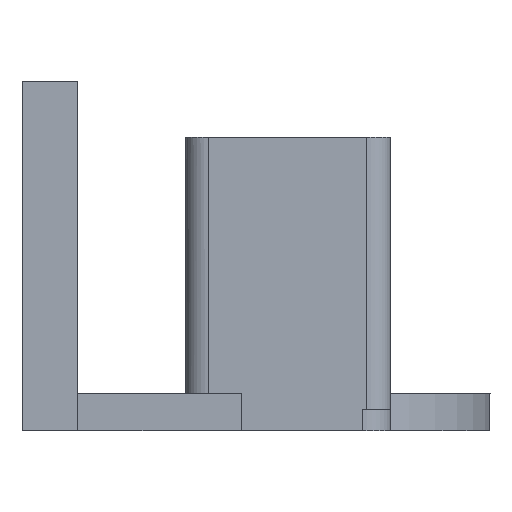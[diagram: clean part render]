
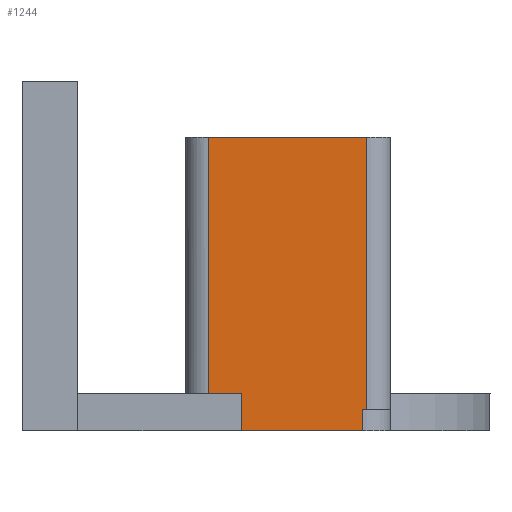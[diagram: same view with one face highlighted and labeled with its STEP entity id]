
A CAD part, left-side view. The second image highlights one B-rep face of the part: STEP entity #1244.
In plain terms, the highlighted planar face has unit normal (-1, 0, 0).
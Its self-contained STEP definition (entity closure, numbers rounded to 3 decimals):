
#45 = PLANE('',#46);
#46 = AXIS2_PLACEMENT_3D('',#47,#48,#49);
#47 = CARTESIAN_POINT('',(0.,0.,0.));
#48 = DIRECTION('',(0.,0.,1.));
#49 = DIRECTION('',(1.,0.,-0.));
#904 = PLANE('',#905);
#905 = AXIS2_PLACEMENT_3D('',#906,#907,#908);
#906 = CARTESIAN_POINT('',(-143.9,-11.,2.3));
#907 = DIRECTION('',(0.,0.,1.));
#908 = DIRECTION('',(1.,0.,0.));
#932 = CYLINDRICAL_SURFACE('',#933,2.5);
#933 = AXIS2_PLACEMENT_3D('',#934,#935,#936);
#934 = CARTESIAN_POINT('',(-141.4,-8.5,2.3));
#935 = DIRECTION('',(0.,0.,1.));
#936 = DIRECTION('',(-1.,0.,0.));
#960 = PLANE('',#961);
#961 = AXIS2_PLACEMENT_3D('',#962,#963,#964);
#962 = CARTESIAN_POINT('',(-143.9,-11.,31.5));
#963 = DIRECTION('',(0.,0.,1.));
#964 = DIRECTION('',(1.,0.,0.));
#1155 = CYLINDRICAL_SURFACE('',#1156,3.);
#1156 = AXIS2_PLACEMENT_3D('',#1157,#1158,#1159);
#1157 = CARTESIAN_POINT('',(-140.9,-8.,0.));
#1158 = DIRECTION('',(0.,0.,1.));
#1159 = DIRECTION('',(-1.,-0.,0.));
#1171 = VERTEX_POINT('',#1172);
#1172 = CARTESIAN_POINT('',(-143.9,-8.5,2.3));
#1196 = VERTEX_POINT('',#1197);
#1197 = CARTESIAN_POINT('',(-143.9,-8.5,31.5));
#1219 = EDGE_CURVE('',#1171,#1196,#1220,.T.);
#1220 = SURFACE_CURVE('',#1221,(#1225,#1232),.PCURVE_S1.);
#1221 = LINE('',#1222,#1223);
#1222 = CARTESIAN_POINT('',(-143.9,-8.5,2.3));
#1223 = VECTOR('',#1224,1.);
#1224 = DIRECTION('',(0.,0.,1.));
#1225 = PCURVE('',#932,#1226);
#1226 = DEFINITIONAL_REPRESENTATION('',(#1227),#1231);
#1227 = LINE('',#1228,#1229);
#1228 = CARTESIAN_POINT('',(0.,0.));
#1229 = VECTOR('',#1230,1.);
#1230 = DIRECTION('',(0.,1.));
#1231 = ( GEOMETRIC_REPRESENTATION_CONTEXT(2) 
PARAMETRIC_REPRESENTATION_CONTEXT() REPRESENTATION_CONTEXT('2D SPACE',''
  ) );
#1232 = PCURVE('',#1233,#1238);
#1233 = PLANE('',#1234);
#1234 = AXIS2_PLACEMENT_3D('',#1235,#1236,#1237);
#1235 = CARTESIAN_POINT('',(-143.9,-11.,0.));
#1236 = DIRECTION('',(1.,0.,-0.));
#1237 = DIRECTION('',(0.,0.,1.));
#1238 = DEFINITIONAL_REPRESENTATION('',(#1239),#1243);
#1239 = LINE('',#1240,#1241);
#1240 = CARTESIAN_POINT('',(2.3,-2.5));
#1241 = VECTOR('',#1242,1.);
#1242 = DIRECTION('',(1.,0.));
#1243 = ( GEOMETRIC_REPRESENTATION_CONTEXT(2) 
PARAMETRIC_REPRESENTATION_CONTEXT() REPRESENTATION_CONTEXT('2D SPACE',''
  ) );
#1244 = ADVANCED_FACE('',(#1245),#1233,.F.);
#1245 = FACE_BOUND('',#1246,.F.);
#1246 = EDGE_LOOP('',(#1247,#1270,#1271,#1294,#1317,#1340,#1366,#1392));
#1247 = ORIENTED_EDGE('',*,*,#1248,.F.);
#1248 = EDGE_CURVE('',#1196,#1249,#1251,.T.);
#1249 = VERTEX_POINT('',#1250);
#1250 = CARTESIAN_POINT('',(-143.9,8.5,31.5));
#1251 = SURFACE_CURVE('',#1252,(#1256,#1263),.PCURVE_S1.);
#1252 = LINE('',#1253,#1254);
#1253 = CARTESIAN_POINT('',(-143.9,-11.,31.5));
#1254 = VECTOR('',#1255,1.);
#1255 = DIRECTION('',(0.,1.,0.));
#1256 = PCURVE('',#1233,#1257);
#1257 = DEFINITIONAL_REPRESENTATION('',(#1258),#1262);
#1258 = LINE('',#1259,#1260);
#1259 = CARTESIAN_POINT('',(31.5,0.));
#1260 = VECTOR('',#1261,1.);
#1261 = DIRECTION('',(0.,-1.));
#1262 = ( GEOMETRIC_REPRESENTATION_CONTEXT(2) 
PARAMETRIC_REPRESENTATION_CONTEXT() REPRESENTATION_CONTEXT('2D SPACE',''
  ) );
#1263 = PCURVE('',#960,#1264);
#1264 = DEFINITIONAL_REPRESENTATION('',(#1265),#1269);
#1265 = LINE('',#1266,#1267);
#1266 = CARTESIAN_POINT('',(0.,0.));
#1267 = VECTOR('',#1268,1.);
#1268 = DIRECTION('',(0.,1.));
#1269 = ( GEOMETRIC_REPRESENTATION_CONTEXT(2) 
PARAMETRIC_REPRESENTATION_CONTEXT() REPRESENTATION_CONTEXT('2D SPACE',''
  ) );
#1270 = ORIENTED_EDGE('',*,*,#1219,.F.);
#1271 = ORIENTED_EDGE('',*,*,#1272,.T.);
#1272 = EDGE_CURVE('',#1171,#1273,#1275,.T.);
#1273 = VERTEX_POINT('',#1274);
#1274 = CARTESIAN_POINT('',(-143.9,-8.,2.3));
#1275 = SURFACE_CURVE('',#1276,(#1280,#1287),.PCURVE_S1.);
#1276 = LINE('',#1277,#1278);
#1277 = CARTESIAN_POINT('',(-143.9,-11.,2.3));
#1278 = VECTOR('',#1279,1.);
#1279 = DIRECTION('',(0.,1.,0.));
#1280 = PCURVE('',#1233,#1281);
#1281 = DEFINITIONAL_REPRESENTATION('',(#1282),#1286);
#1282 = LINE('',#1283,#1284);
#1283 = CARTESIAN_POINT('',(2.3,0.));
#1284 = VECTOR('',#1285,1.);
#1285 = DIRECTION('',(0.,-1.));
#1286 = ( GEOMETRIC_REPRESENTATION_CONTEXT(2) 
PARAMETRIC_REPRESENTATION_CONTEXT() REPRESENTATION_CONTEXT('2D SPACE',''
  ) );
#1287 = PCURVE('',#904,#1288);
#1288 = DEFINITIONAL_REPRESENTATION('',(#1289),#1293);
#1289 = LINE('',#1290,#1291);
#1290 = CARTESIAN_POINT('',(0.,0.));
#1291 = VECTOR('',#1292,1.);
#1292 = DIRECTION('',(0.,1.));
#1293 = ( GEOMETRIC_REPRESENTATION_CONTEXT(2) 
PARAMETRIC_REPRESENTATION_CONTEXT() REPRESENTATION_CONTEXT('2D SPACE',''
  ) );
#1294 = ORIENTED_EDGE('',*,*,#1295,.F.);
#1295 = EDGE_CURVE('',#1296,#1273,#1298,.T.);
#1296 = VERTEX_POINT('',#1297);
#1297 = CARTESIAN_POINT('',(-143.9,-8.,0.));
#1298 = SURFACE_CURVE('',#1299,(#1303,#1310),.PCURVE_S1.);
#1299 = LINE('',#1300,#1301);
#1300 = CARTESIAN_POINT('',(-143.9,-8.,0.));
#1301 = VECTOR('',#1302,1.);
#1302 = DIRECTION('',(0.,0.,1.));
#1303 = PCURVE('',#1233,#1304);
#1304 = DEFINITIONAL_REPRESENTATION('',(#1305),#1309);
#1305 = LINE('',#1306,#1307);
#1306 = CARTESIAN_POINT('',(0.,-3.));
#1307 = VECTOR('',#1308,1.);
#1308 = DIRECTION('',(1.,0.));
#1309 = ( GEOMETRIC_REPRESENTATION_CONTEXT(2) 
PARAMETRIC_REPRESENTATION_CONTEXT() REPRESENTATION_CONTEXT('2D SPACE',''
  ) );
#1310 = PCURVE('',#1155,#1311);
#1311 = DEFINITIONAL_REPRESENTATION('',(#1312),#1316);
#1312 = LINE('',#1313,#1314);
#1313 = CARTESIAN_POINT('',(0.,0.));
#1314 = VECTOR('',#1315,1.);
#1315 = DIRECTION('',(0.,1.));
#1316 = ( GEOMETRIC_REPRESENTATION_CONTEXT(2) 
PARAMETRIC_REPRESENTATION_CONTEXT() REPRESENTATION_CONTEXT('2D SPACE',''
  ) );
#1317 = ORIENTED_EDGE('',*,*,#1318,.T.);
#1318 = EDGE_CURVE('',#1296,#1319,#1321,.T.);
#1319 = VERTEX_POINT('',#1320);
#1320 = CARTESIAN_POINT('',(-143.9,5.,0.));
#1321 = SURFACE_CURVE('',#1322,(#1326,#1333),.PCURVE_S1.);
#1322 = LINE('',#1323,#1324);
#1323 = CARTESIAN_POINT('',(-143.9,-11.,0.));
#1324 = VECTOR('',#1325,1.);
#1325 = DIRECTION('',(-0.,1.,0.));
#1326 = PCURVE('',#1233,#1327);
#1327 = DEFINITIONAL_REPRESENTATION('',(#1328),#1332);
#1328 = LINE('',#1329,#1330);
#1329 = CARTESIAN_POINT('',(0.,0.));
#1330 = VECTOR('',#1331,1.);
#1331 = DIRECTION('',(0.,-1.));
#1332 = ( GEOMETRIC_REPRESENTATION_CONTEXT(2) 
PARAMETRIC_REPRESENTATION_CONTEXT() REPRESENTATION_CONTEXT('2D SPACE',''
  ) );
#1333 = PCURVE('',#45,#1334);
#1334 = DEFINITIONAL_REPRESENTATION('',(#1335),#1339);
#1335 = LINE('',#1336,#1337);
#1336 = CARTESIAN_POINT('',(-143.9,-11.));
#1337 = VECTOR('',#1338,1.);
#1338 = DIRECTION('',(0.,1.));
#1339 = ( GEOMETRIC_REPRESENTATION_CONTEXT(2) 
PARAMETRIC_REPRESENTATION_CONTEXT() REPRESENTATION_CONTEXT('2D SPACE',''
  ) );
#1340 = ORIENTED_EDGE('',*,*,#1341,.T.);
#1341 = EDGE_CURVE('',#1319,#1342,#1344,.T.);
#1342 = VERTEX_POINT('',#1343);
#1343 = CARTESIAN_POINT('',(-143.9,5.,4.));
#1344 = SURFACE_CURVE('',#1345,(#1349,#1355),.PCURVE_S1.);
#1345 = LINE('',#1346,#1347);
#1346 = CARTESIAN_POINT('',(-143.9,5.,0.));
#1347 = VECTOR('',#1348,1.);
#1348 = DIRECTION('',(0.,0.,1.));
#1349 = PCURVE('',#1233,#1350);
#1350 = DEFINITIONAL_REPRESENTATION('',(#1351),#1354);
#1351 = B_SPLINE_CURVE_WITH_KNOTS('',1,(#1352,#1353),.UNSPECIFIED.,.F.,
  .F.,(2,2),(0.,4.),.PIECEWISE_BEZIER_KNOTS.);
#1352 = CARTESIAN_POINT('',(0.,-16.));
#1353 = CARTESIAN_POINT('',(4.,-16.));
#1354 = ( GEOMETRIC_REPRESENTATION_CONTEXT(2) 
PARAMETRIC_REPRESENTATION_CONTEXT() REPRESENTATION_CONTEXT('2D SPACE',''
  ) );
#1355 = PCURVE('',#1356,#1361);
#1356 = PLANE('',#1357);
#1357 = AXIS2_PLACEMENT_3D('',#1358,#1359,#1360);
#1358 = CARTESIAN_POINT('',(-150.,5.,0.));
#1359 = DIRECTION('',(-0.,1.,0.));
#1360 = DIRECTION('',(0.,0.,1.));
#1361 = DEFINITIONAL_REPRESENTATION('',(#1362),#1365);
#1362 = B_SPLINE_CURVE_WITH_KNOTS('',1,(#1363,#1364),.UNSPECIFIED.,.F.,
  .F.,(2,2),(0.,4.),.PIECEWISE_BEZIER_KNOTS.);
#1363 = CARTESIAN_POINT('',(0.,6.1));
#1364 = CARTESIAN_POINT('',(4.,6.1));
#1365 = ( GEOMETRIC_REPRESENTATION_CONTEXT(2) 
PARAMETRIC_REPRESENTATION_CONTEXT() REPRESENTATION_CONTEXT('2D SPACE',''
  ) );
#1366 = ORIENTED_EDGE('',*,*,#1367,.F.);
#1367 = EDGE_CURVE('',#1368,#1342,#1370,.T.);
#1368 = VERTEX_POINT('',#1369);
#1369 = CARTESIAN_POINT('',(-143.9,8.5,4.));
#1370 = SURFACE_CURVE('',#1371,(#1375,#1381),.PCURVE_S1.);
#1371 = LINE('',#1372,#1373);
#1372 = CARTESIAN_POINT('',(-143.9,-3.,4.));
#1373 = VECTOR('',#1374,1.);
#1374 = DIRECTION('',(0.,-1.,0.));
#1375 = PCURVE('',#1233,#1376);
#1376 = DEFINITIONAL_REPRESENTATION('',(#1377),#1380);
#1377 = B_SPLINE_CURVE_WITH_KNOTS('',1,(#1378,#1379),.UNSPECIFIED.,.F.,
  .F.,(2,2),(-11.5,-8.),.PIECEWISE_BEZIER_KNOTS.);
#1378 = CARTESIAN_POINT('',(4.,-19.5));
#1379 = CARTESIAN_POINT('',(4.,-16.));
#1380 = ( GEOMETRIC_REPRESENTATION_CONTEXT(2) 
PARAMETRIC_REPRESENTATION_CONTEXT() REPRESENTATION_CONTEXT('2D SPACE',''
  ) );
#1381 = PCURVE('',#1382,#1387);
#1382 = PLANE('',#1383);
#1383 = AXIS2_PLACEMENT_3D('',#1384,#1385,#1386);
#1384 = CARTESIAN_POINT('',(-150.,5.,4.));
#1385 = DIRECTION('',(0.,0.,1.));
#1386 = DIRECTION('',(1.,0.,-0.));
#1387 = DEFINITIONAL_REPRESENTATION('',(#1388),#1391);
#1388 = B_SPLINE_CURVE_WITH_KNOTS('',1,(#1389,#1390),.UNSPECIFIED.,.F.,
  .F.,(2,2),(-11.5,-8.),.PIECEWISE_BEZIER_KNOTS.);
#1389 = CARTESIAN_POINT('',(6.1,3.5));
#1390 = CARTESIAN_POINT('',(6.1,0.));
#1391 = ( GEOMETRIC_REPRESENTATION_CONTEXT(2) 
PARAMETRIC_REPRESENTATION_CONTEXT() REPRESENTATION_CONTEXT('2D SPACE',''
  ) );
#1392 = ORIENTED_EDGE('',*,*,#1393,.T.);
#1393 = EDGE_CURVE('',#1368,#1249,#1394,.T.);
#1394 = SURFACE_CURVE('',#1395,(#1399,#1406),.PCURVE_S1.);
#1395 = LINE('',#1396,#1397);
#1396 = CARTESIAN_POINT('',(-143.9,8.5,2.3));
#1397 = VECTOR('',#1398,1.);
#1398 = DIRECTION('',(0.,0.,1.));
#1399 = PCURVE('',#1233,#1400);
#1400 = DEFINITIONAL_REPRESENTATION('',(#1401),#1405);
#1401 = LINE('',#1402,#1403);
#1402 = CARTESIAN_POINT('',(2.3,-19.5));
#1403 = VECTOR('',#1404,1.);
#1404 = DIRECTION('',(1.,0.));
#1405 = ( GEOMETRIC_REPRESENTATION_CONTEXT(2) 
PARAMETRIC_REPRESENTATION_CONTEXT() REPRESENTATION_CONTEXT('2D SPACE',''
  ) );
#1406 = PCURVE('',#1407,#1412);
#1407 = CYLINDRICAL_SURFACE('',#1408,2.5);
#1408 = AXIS2_PLACEMENT_3D('',#1409,#1410,#1411);
#1409 = CARTESIAN_POINT('',(-141.4,8.5,2.3));
#1410 = DIRECTION('',(0.,0.,1.));
#1411 = DIRECTION('',(-1.,0.,0.));
#1412 = DEFINITIONAL_REPRESENTATION('',(#1413),#1417);
#1413 = LINE('',#1414,#1415);
#1414 = CARTESIAN_POINT('',(-0.,0.));
#1415 = VECTOR('',#1416,1.);
#1416 = DIRECTION('',(-0.,1.));
#1417 = ( GEOMETRIC_REPRESENTATION_CONTEXT(2) 
PARAMETRIC_REPRESENTATION_CONTEXT() REPRESENTATION_CONTEXT('2D SPACE',''
  ) );
